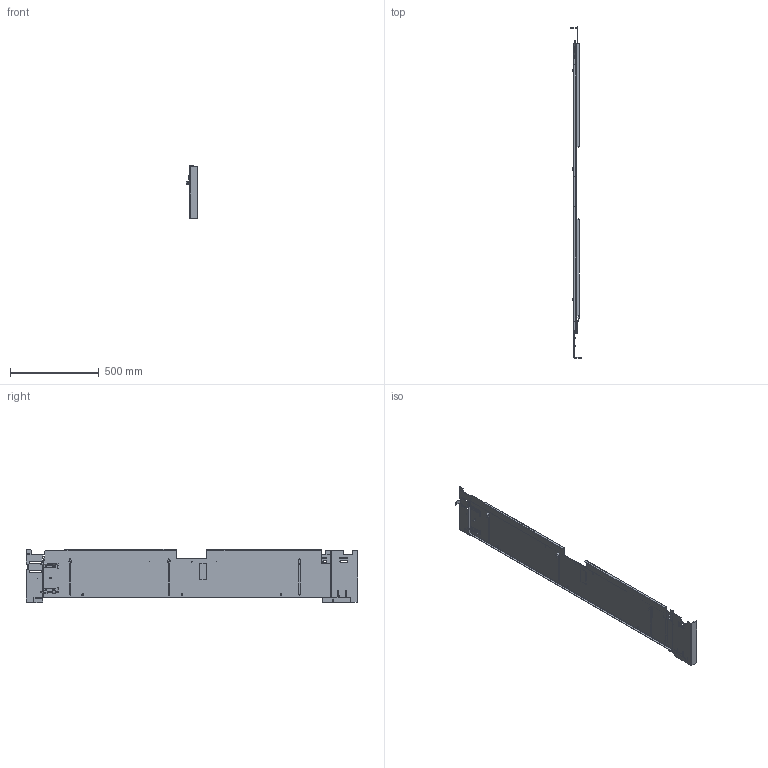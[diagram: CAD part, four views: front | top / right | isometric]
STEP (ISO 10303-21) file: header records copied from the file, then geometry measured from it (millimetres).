
FILE_DESCRIPTION (( 'STEP AP203' ), '1' );
FILE_NAME ('a74bp12.STEP', '2019-08-09T14:22:34', ( '' ), ( '' ), 'SwSTEP 2.0', 'SolidWorks 2016', '' );
FILE_SCHEMA (( 'CONFIG_CONTROL_DESIGN' ));
Length unit declared in the file: inch
Products named in the file (23): a74bp12; 89173306_RETRACTED; 89173301; 89172234_Solid bracket; 45129001_45129001; 89172235; 99401301_B18.21.2M-External Tooth Lock Washers_AM6; 89173302_MAIN PNL; 89172232_Solid bracket; 89172384_87920449; 99404044_99404044; 89172233; 89090813; 99404177_Config-Drawing; 89172231; 87932084_91831A411; 89173304; 87791796_no threads; 87800105_87800105; 89173300; 87780048; 87800103_87800103; 99415120_99415120
Assembly tree (40 placements, depth 4):
  a74bp12
    89173306_RETRACTED
      89173304
        89173302_MAIN PNL
        99404044_99404044  x4
        99404177_Config-Drawing
      89173301
        89173300
        99415120_99415120  x3
        99404177_Config-Drawing
      45129001_45129001  x3
      99401301_B18.21.2M-External Tooth Lock Washers_AM6  x3
      89172384_87920449  x2
      89090813  x2
      87932084_91831A411  x4
      87800105_87800105  x2
      87800103_87800103  x2
    89172235
      89172234_Solid bracket
    89172233
      89172232_Solid bracket
    89172231
    87791796_no threads  x2
    87780048
Bounding box: 65.74 x 1874.77 x 300.15 mm (x, y, z)
Volume: 1765982.7 mm3; surface area: 1910117.1 mm2
Topology: 39 solids, 39 shells, 2226 faces, 5799 edges, 3681 vertices
Faces by surface type: plane 1024, cylinder 745, cone 315, bspline 88, torus 54
Entity records: 42091 total; most frequent: CARTESIAN_POINT 12656, DIRECTION 5593, ORIENTED_EDGE 5566, EDGE_CURVE 2783, AXIS2_PLACEMENT_3D 1985, VERTEX_POINT 1774, LINE 1623, VECTOR 1623
